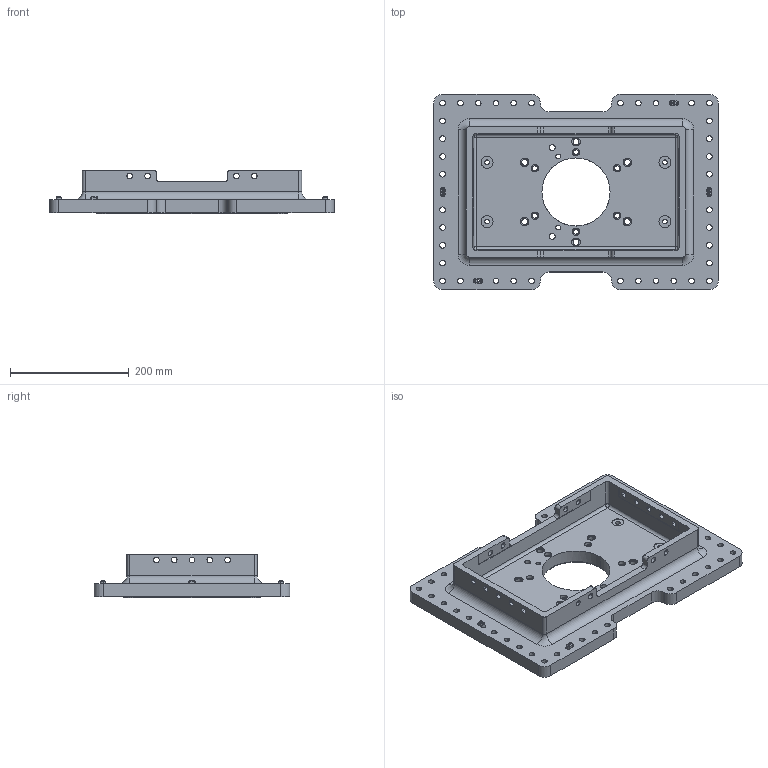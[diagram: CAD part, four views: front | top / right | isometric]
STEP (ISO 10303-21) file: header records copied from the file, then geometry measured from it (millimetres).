
FILE_DESCRIPTION(('STEP AP214'),'1');
FILE_NAME('EGT016_1706357_H-RAHMEN_300X450_SW80.CATPart.stp','2015-09-14T13:04:30',('3D-Tool'),(' '),'Spatial InterOp 3D',' ',' ');
FILE_SCHEMA(('automotive_design'));
Length unit declared in the file: millimetre
Products named in the file (21): EGT016_1706357_H-RAHMEN_300X450_SW80|EGT016_H-RAHMEN_300X450_SW80|Bohrbearbeitung; 1; 2; 3; 4; 5; 6; 7; 8; 9; 10; 11; 12; 13; 14; 15; 16; 17; 18; 19; 20
Bounding box: 480 x 330 x 74 mm (x, y, z)
Volume: 3696445.6 mm3; surface area: 494688.1 mm2
Topology: 17 solids, 17 shells, 880 faces, 2312 edges, 1514 vertices
Faces by surface type: cylinder 642, plane 142, cone 80, torus 12, sphere 4
Entity records: 35824 total; most frequent: DIRECTION 5492, CARTESIAN_POINT 4887, ORIENTED_EDGE 4616, EDGE_CURVE 2308, AXIS2_PLACEMENT_3D 2307, VERTEX_POINT 1510, CIRCLE 1406, EDGE_LOOP 1122
